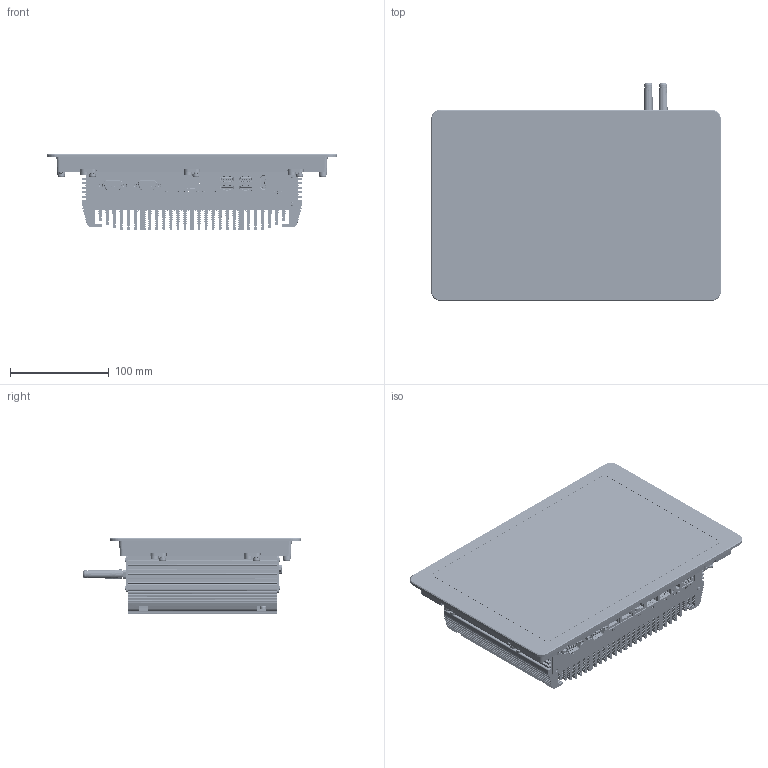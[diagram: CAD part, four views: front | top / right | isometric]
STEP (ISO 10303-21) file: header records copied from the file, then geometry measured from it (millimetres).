
FILE_DESCRIPTION(/* description */ (''),/* implementation_level */ '2;1');
FILE_NAME(/* name */ '10.1总装.stp',/* time_stamp */ '2026-03-05T09:13:50+08:00',/* author */ (''),/* organization */ (''),/* preprocessor_version */ 'ST-DEVELOPER v16',/* originating_system */ 'SIEMENS PLM Software NX 10.0',/* authorisation */ '');
FILE_SCHEMA (('AP203_CONFIGURATION_CONTROLLED_3D_DESIGN_OF_MECHANICAL_PARTS_AND_ASSEMBLIES_MIM_LF { 1 0 10303 403 2 1 2}'));
Products named in the file (1): Admi1FF8C4AFejvk
Bounding box: 293.6 x 220.79 x 77.5 mm (x, y, z)
Volume: 1263551.9 mm3; surface area: 809547.6 mm2
Topology: 187 solids, 197 shells, 11513 faces, 30354 edges, 19361 vertices
Faces by surface type: plane 5297, cylinder 4277, bspline 1268, torus 315, cone 261, sphere 95
Full cylindrical faces by diameter (mm): 3.2 x20, 4 x10, 4.2 x5, 4.5 x20, 5.4 x4, 6 x10, 7 x7
Entity records: 469553 total; most frequent: CARTESIAN_POINT 241664, ORIENTED_EDGE 60054, EDGE_CURVE 30033, DIRECTION 27924, B_SPLINE_CURVE_WITH_KNOTS 23368, VERTEX_POINT 19328, AXIS2_PLACEMENT_3D 12725, EDGE_LOOP 12385
